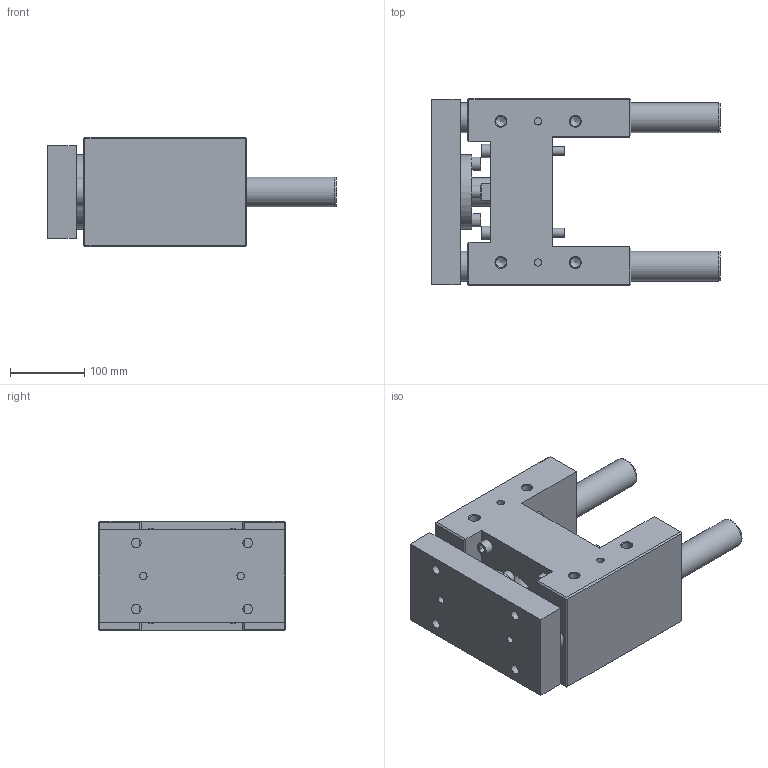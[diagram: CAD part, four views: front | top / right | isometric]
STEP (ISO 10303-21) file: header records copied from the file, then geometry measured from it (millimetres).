
FILE_DESCRIPTION( ( 'STEP AP214' ), '1' );
FILE_NAME( 'U:/Etudes/Top Solid/BIBLIO 3D AVM/TOP/PNEUMATIQUE/GUIDAGES/Type 32 (en H)/S_Lourde/320S2130.step', '2005-05-27T09:30:13', ( ' ' ), ( ' ' ), 'XStep 1.0', ' ', ' ' );
FILE_SCHEMA( ( 'automotive_design' ) );
Length unit declared in the file: metre
Products named in the file (2): 1; 2
Bounding box: 388 x 252 x 148 mm (x, y, z)
Volume: 6584874.9 mm3; surface area: 563527.3 mm2
Topology: 2 solids, 7 shells, 238 faces, 524 edges, 339 vertices
Faces by surface type: plane 149, cylinder 68, cone 21
Full cylindrical faces by diameter (mm): 10 x4, 10.106 x4, 12 x16, 13 x12, 13.835 x8, 18 x8, 20 x4, 24.835 x1, 39 x1, 40 x4, 42 x1, 57 x1, 60 x2, 65 x1, 100 x1
Entity records: 7905 total; most frequent: CARTESIAN_POINT 1198, DIRECTION 996, ORIENTED_EDGE 784, EDGE_CURVE 392, EDGE_LOOP 390, AXIS2_PLACEMENT_3D 372, FACE_OUTER_BOUND 306, VERTEX_POINT 302
